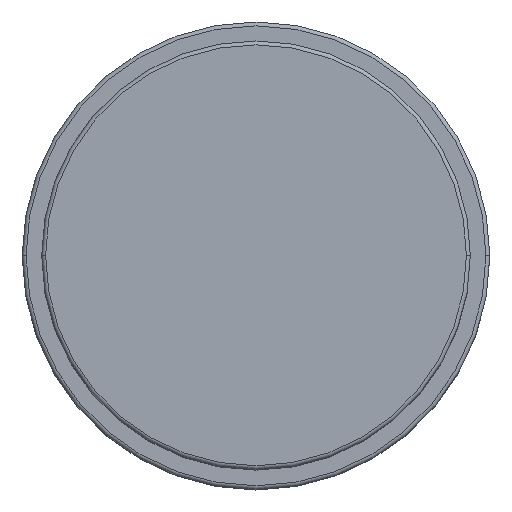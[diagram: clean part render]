
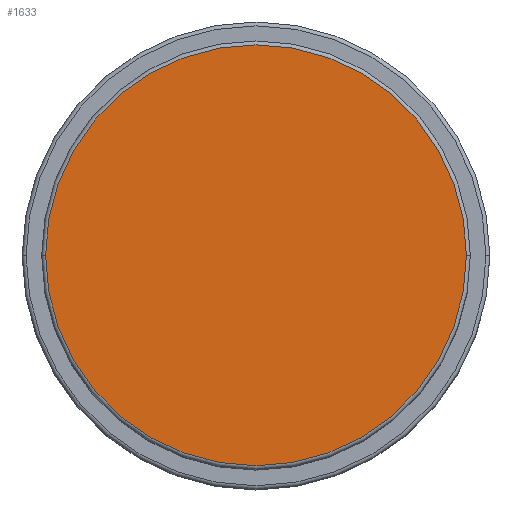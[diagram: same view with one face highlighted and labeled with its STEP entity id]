
A CAD part, top view. The second image highlights one B-rep face of the part: STEP entity #1633.
In plain terms, the highlighted planar face has unit normal (0, 0, 1).
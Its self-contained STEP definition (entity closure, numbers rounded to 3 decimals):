
#136 = CARTESIAN_POINT ( 'NONE',  ( -27., 0., 66. ) ) ;
#201 = PLANE ( 'NONE',  #1595 ) ;
#262 = DIRECTION ( 'NONE',  ( 1., 0., 0. ) ) ;
#290 = ORIENTED_EDGE ( 'NONE', *, *, #448, .T. ) ;
#436 = CIRCLE ( 'NONE', #537, 27. ) ;
#441 = EDGE_CURVE ( 'NONE', #1102, #856, #978, .T. ) ;
#448 = EDGE_CURVE ( 'NONE', #856, #1102, #436, .T. ) ;
#529 = CARTESIAN_POINT ( 'NONE',  ( 0., 0., 66. ) ) ;
#537 = AXIS2_PLACEMENT_3D ( 'NONE', #529, #655, #262 ) ;
#655 = DIRECTION ( 'NONE',  ( 0., 0., 1. ) ) ;
#772 = EDGE_LOOP ( 'NONE', ( #290, #965 ) ) ;
#777 = DIRECTION ( 'NONE',  ( 0., 0., 1. ) ) ;
#856 = VERTEX_POINT ( 'NONE', #1516 ) ;
#953 = CARTESIAN_POINT ( 'NONE',  ( 0., 0., 66. ) ) ;
#965 = ORIENTED_EDGE ( 'NONE', *, *, #441, .T. ) ;
#978 = CIRCLE ( 'NONE', #1036, 27. ) ;
#1013 = DIRECTION ( 'NONE',  ( 1., 0., 0. ) ) ;
#1036 = AXIS2_PLACEMENT_3D ( 'NONE', #1149, #777, #1013 ) ;
#1083 = DIRECTION ( 'NONE',  ( 1., 0., 0. ) ) ;
#1102 = VERTEX_POINT ( 'NONE', #136 ) ;
#1149 = CARTESIAN_POINT ( 'NONE',  ( 0., 0., 66. ) ) ;
#1257 = FACE_OUTER_BOUND ( 'NONE', #772, .T. ) ;
#1484 = DIRECTION ( 'NONE',  ( 0., 0., 1. ) ) ;
#1516 = CARTESIAN_POINT ( 'NONE',  ( 27., 0., 66. ) ) ;
#1595 = AXIS2_PLACEMENT_3D ( 'NONE', #953, #1484, #1083 ) ;
#1633 = ADVANCED_FACE ( 'NONE', ( #1257 ), #201, .T. ) ;
